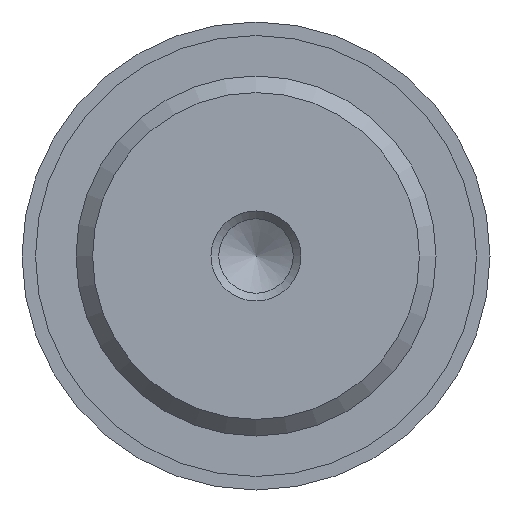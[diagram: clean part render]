
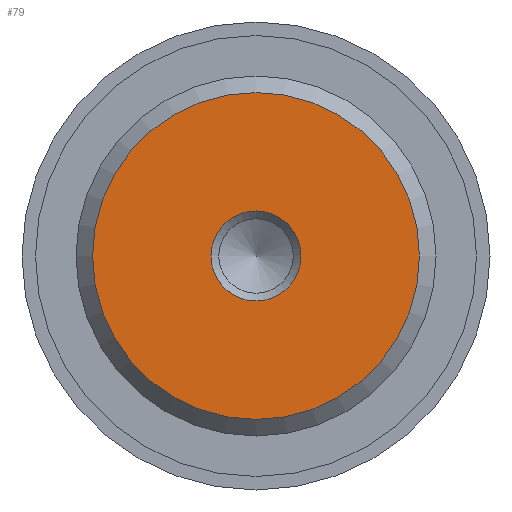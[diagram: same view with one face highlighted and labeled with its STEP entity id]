
A CAD part, front view. The second image highlights one B-rep face of the part: STEP entity #79.
In plain terms, the highlighted planar face has unit normal (0, -1, 0).
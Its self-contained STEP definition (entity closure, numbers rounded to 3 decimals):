
#79 = ADVANCED_FACE( '', ( #139, #140 ), #141, .F. );
#139 = FACE_BOUND( '', #257, .T. );
#140 = FACE_OUTER_BOUND( '', #258, .T. );
#141 = PLANE( '', #259 );
#257 = EDGE_LOOP( '', ( #387 ) );
#258 = EDGE_LOOP( '', ( #388 ) );
#259 = AXIS2_PLACEMENT_3D( '', #389, #390, #391 );
#387 = ORIENTED_EDGE( '', *, *, #758, .F. );
#388 = ORIENTED_EDGE( '', *, *, #762, .T. );
#389 = CARTESIAN_POINT( '', ( 9.08, 0., 0. ) );
#390 = DIRECTION( '', ( 0., 1., 0. ) );
#391 = DIRECTION( '', ( 0., 0., 1. ) );
#758 = EDGE_CURVE( '', #880, #880, #881, .T. );
#762 = EDGE_CURVE( '', #886, #886, #887, .T. );
#880 = VERTEX_POINT( '', #1090 );
#881 = CIRCLE( '', #1091, 2.5 );
#886 = VERTEX_POINT( '', #1096 );
#887 = CIRCLE( '', #1097, 9.08 );
#1090 = CARTESIAN_POINT( '', ( 2.5, 0., 0. ) );
#1091 = AXIS2_PLACEMENT_3D( '', #1434, #1435, #1436 );
#1096 = CARTESIAN_POINT( '', ( 0., 0., -9.08 ) );
#1097 = AXIS2_PLACEMENT_3D( '', #1443, #1444, #1445 );
#1434 = CARTESIAN_POINT( '', ( 0., 0., 0. ) );
#1435 = DIRECTION( '', ( 0., -1., 0. ) );
#1436 = DIRECTION( '', ( 1., 0., 0. ) );
#1443 = CARTESIAN_POINT( '', ( 0., 0., 0. ) );
#1444 = DIRECTION( '', ( 0., -1., 0. ) );
#1445 = DIRECTION( '', ( 0., 0., -1. ) );
